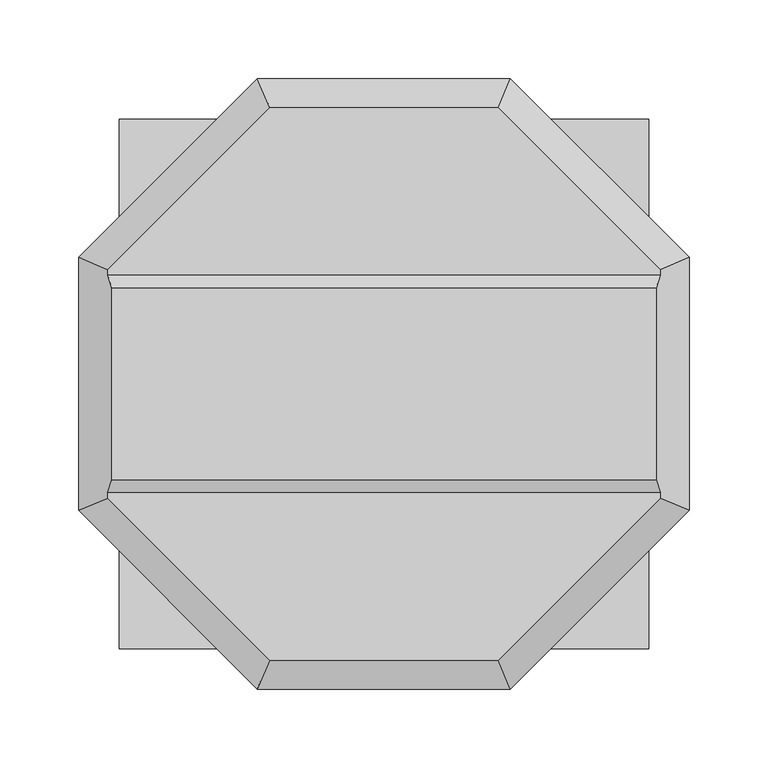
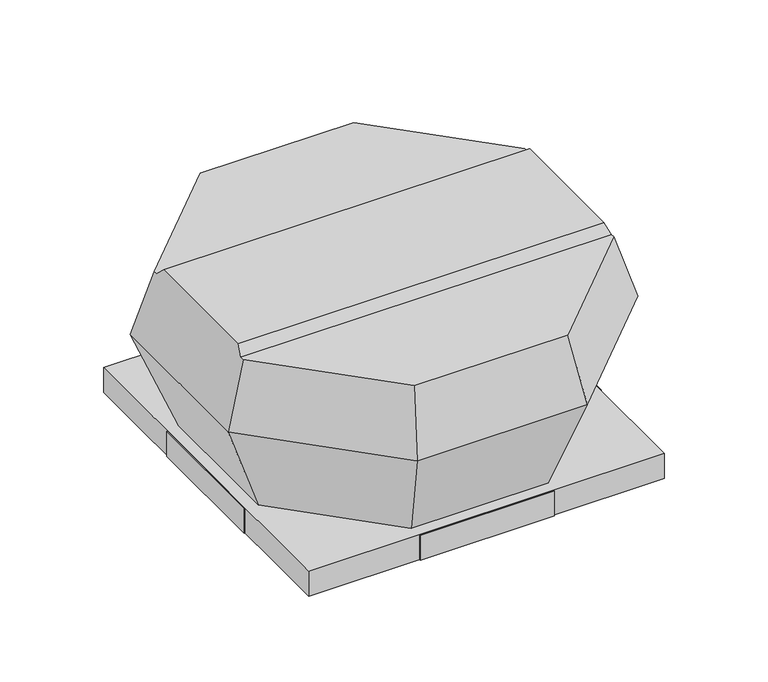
"""IFC4 building model written with IfcOpenShell, lengths in millimetres: unitary equipment geometry, VE-Wentylator-ParaForma-Harmann-VIVER-Wywiewny : 2-190/450S."""

from ifc_helpers import new_model, si_unit, origin, place, context, project, spatial, faceted_brep, source, transform, mapped, element, save


def unitary_equipment_1b8540bf(model_context):
    return source(origin(), model_context, "Body", "Brep", [
        faceted_brep([(173.3023939, -60.95, 166.2), (173.3023939, 60.95, 166.2), (-173.3023939, 60.95, 166.2), (-173.3023939, -60.95, 166.2), (175.7547473, 69.05, 158.1), (-175.7547473, 69.05, 158.1), (175.7547473, -69.05, 158.1), (-175.7547473, -69.05, 158.1), (72.8, -175.7547473, 158.1), (175.7547473, -72.8, 158.1), (-175.7547473, -72.8, 158.1), (-72.8, -175.7547473, 158.1), (175.7547473, 72.8, 158.1), (72.8, 175.7547473, 158.1), (-72.8, 175.7547473, 158.1), (-175.7547473, 72.8, 158.1), (80.5, -194.3441918, 96.7), (194.3441918, -80.5, 96.7), (194.3441918, 80.5, 96.7), (80.5, 194.3441918, 96.7), (-80.5, 194.3441918, 96.7), (-194.3441918, 80.5, 96.7), (-194.3441918, -80.5, 96.7), (-80.5, -194.3441918, 96.7), (65.05, -157.0445922, 1.0), (-65.05, -157.0445922, 1.0), (-157.0445922, -65.05, 1.0), (-157.0445922, 65.05, 1.0), (-65.05, 157.0445922, 1.0), (65.05, 157.0445922, 1.0), (157.0445922, 65.05, 1.0), (157.0445922, -65.05, 1.0)], [[[0, 1, 2, 3]], [[1, 4, 5, 2]], [[6, 0, 3, 7]], [[8, 9, 6, 7, 10, 11]], [[12, 13, 14, 15, 5, 4]], [[9, 8, 16, 17]], [[9, 17, 18, 12, 4, 1, 0, 6]], [[13, 12, 18, 19]], [[14, 13, 19, 20]], [[15, 14, 20, 21]], [[15, 21, 22, 10, 7, 3, 2, 5]], [[11, 10, 22, 23]], [[8, 11, 23, 16]], [[24, 25, 26, 27, 28, 29, 30, 31]], [[24, 31, 17, 16]], [[31, 30, 18, 17]], [[30, 29, 19, 18]], [[29, 28, 20, 19]], [[28, 27, 21, 20]], [[27, 26, 22, 21]], [[26, 25, 23, 22]], [[25, 24, 16, 23]]]),
        faceted_brep([(167.5, 167.5, -24.0), (167.5, 167.5, 0.0), (-167.5, 167.5, 0.0), (-167.5, 167.5, -24.0), (168.5, 168.5, 1.0), (168.5, 168.5, -24.0), (-168.5, 168.5, -24.0), (-168.5, 168.5, 1.0), (-167.5, -167.5, 0.0), (-167.5, -167.5, -24.0), (-168.5, -168.5, -24.0), (-168.5, -168.5, 1.0), (167.5, -167.5, 0.0), (167.5, -167.5, -24.0), (168.5, -168.5, -24.0), (168.5, -168.5, 1.0)], [[[0, 1, 2, 3]], [[4, 5, 6, 7]], [[3, 2, 8, 9]], [[7, 6, 10, 11]], [[9, 8, 12, 13]], [[11, 10, 14, 15]], [[13, 12, 1, 0]], [[5, 14, 10, 6], [3, 9, 13, 0]], [[15, 14, 5, 4]], [[7, 11, 15, 4]], [[1, 12, 8, 2]]]),
        faceted_brep([(-168.5, -63.7, -24.0), (-169.5, -63.7, -24.0), (-169.5, 63.7, -24.0), (-168.5, 63.7, -24.0), (-168.5, -63.7, 1.0), (-168.5, 63.7, 1.0), (-169.5, 63.7, 1.0), (-169.5, -63.7, 1.0)], [[[0, 1, 2, 3]], [[4, 5, 6, 7]], [[1, 0, 4, 7]], [[2, 1, 7, 6]], [[3, 2, 6, 5]], [[0, 3, 5, 4]]]),
        faceted_brep([(169.5, -63.7, -24.0), (168.5, -63.7, -24.0), (168.5, 63.7, -24.0), (169.5, 63.7, -24.0), (169.5, 63.7, 1.0), (168.5, 63.7, 1.0), (168.5, 5.0, 1.0), (168.5, -5.0, 1.0), (168.5, -63.7, 1.0), (169.5, -63.7, 1.0), (169.5, -5.0, 1.0), (169.5, 5.0, 1.0)], [[[0, 1, 2, 3]], [[4, 5, 6, 7, 8, 9, 10, 11]], [[1, 0, 9, 8]], [[2, 1, 8, 7, 6, 5]], [[3, 2, 5, 4]], [[0, 3, 4, 11, 10, 9]]]),
        faceted_brep([(63.7, 168.5, -24.0), (-63.7, 168.5, -24.0), (-63.7, 169.5, -24.0), (63.7, 169.5, -24.0), (63.7, 168.5, 1.0), (63.7, 169.5, 1.0), (-63.7, 169.5, 1.0), (-63.7, 168.5, 1.0)], [[[0, 1, 2, 3]], [[4, 5, 6, 7]], [[1, 0, 4, 7]], [[2, 1, 7, 6]], [[3, 2, 6, 5]], [[0, 3, 5, 4]]]),
        faceted_brep([(63.7, -169.5, -24.0), (-63.7, -169.5, -24.0), (-63.7, -168.5, -24.0), (63.7, -168.5, -24.0), (63.7, -169.5, 1.0), (63.7, -168.5, 1.0), (-63.7, -168.5, 1.0), (-63.7, -169.5, 1.0)], [[[0, 1, 2, 3]], [[4, 5, 6, 7]], [[1, 0, 4, 7]], [[2, 1, 7, 6]], [[3, 2, 6, 5]], [[0, 3, 5, 4]]]),
    ])


if __name__ == "__main__":
    model = new_model("IFC4")
    model_context = context("Model", 3, world=origin())
    ifc_project = project(units=[si_unit("LENGTHUNIT", "METRE", prefix="MILLI")], contexts=[model_context])
    site = spatial("IfcSite", under=ifc_project)
    building = spatial("IfcBuilding", under=site)
    placement = place(None, origin())
    unitary_equipment_shape = unitary_equipment_1b8540bf(model_context)
    element("IfcUnitaryEquipment", 1, ObjectType="VE-Wentylator-ParaForma-Harmann-VIVER-Wywiewny : 2-190/450S", at=placement, inside=building, context=model_context, shape_type="MappedRepresentation", body=[
        mapped(unitary_equipment_shape, transform((0.0, 0.0, 0.0), x_axis=(1.0, 0.0, 0.0), y_axis=(0.0, 1.0, 0.0), z_axis=(0.0, 0.0, 1.0))),
    ])
    save(model, "model.ifc")
